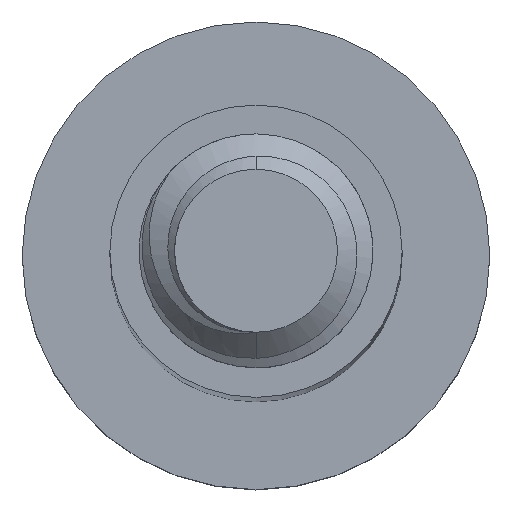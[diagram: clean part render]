
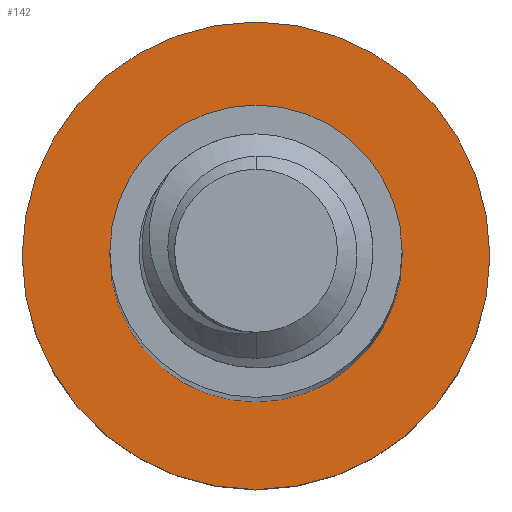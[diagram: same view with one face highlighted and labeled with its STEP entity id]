
A CAD part, top view. The second image highlights one B-rep face of the part: STEP entity #142.
In plain terms, the highlighted planar face has unit normal (0, 0, 1).
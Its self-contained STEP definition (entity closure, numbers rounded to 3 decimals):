
#1 = EDGE_CURVE ( 'NONE', #782, #109, #295, .T. ) ;
#109 = VERTEX_POINT ( 'NONE', #1182 ) ;
#142 = ADVANCED_FACE ( 'NONE', ( #1149, #1022 ), #317, .F. ) ;
#169 = DIRECTION ( 'NONE',  ( -1., 0., 0. ) ) ;
#180 = CARTESIAN_POINT ( 'NONE',  ( 2.5, 0., -45. ) ) ;
#209 = CARTESIAN_POINT ( 'NONE',  ( 0., 0., -45. ) ) ;
#260 = CIRCLE ( 'NONE', #1768, 4. ) ;
#295 = CIRCLE ( 'NONE', #571, 2.5 ) ;
#317 = PLANE ( 'NONE',  #572 ) ;
#329 = CARTESIAN_POINT ( 'NONE',  ( 4., 0., -45. ) ) ;
#342 = AXIS2_PLACEMENT_3D ( 'NONE', #209, #1048, #684 ) ;
#401 = ORIENTED_EDGE ( 'NONE', *, *, #504, .F. ) ;
#483 = CIRCLE ( 'NONE', #1142, 2.5 ) ;
#504 = EDGE_CURVE ( 'NONE', #1382, #1554, #260, .T. ) ;
#571 = AXIS2_PLACEMENT_3D ( 'NONE', #635, #1091, #1305 ) ;
#572 = AXIS2_PLACEMENT_3D ( 'NONE', #989, #1689, #1502 ) ;
#635 = CARTESIAN_POINT ( 'NONE',  ( 0., 0., -45. ) ) ;
#684 = DIRECTION ( 'NONE',  ( -1., 0., 0. ) ) ;
#761 = EDGE_CURVE ( 'NONE', #1554, #1382, #1111, .T. ) ;
#782 = VERTEX_POINT ( 'NONE', #180 ) ;
#790 = ORIENTED_EDGE ( 'NONE', *, *, #1445, .T. ) ;
#877 = CARTESIAN_POINT ( 'NONE',  ( -4., 0., -45. ) ) ;
#989 = CARTESIAN_POINT ( 'NONE',  ( 0., 0., -45. ) ) ;
#1022 = FACE_OUTER_BOUND ( 'NONE', #1684, .T. ) ;
#1048 = DIRECTION ( 'NONE',  ( 0., 0., -1. ) ) ;
#1091 = DIRECTION ( 'NONE',  ( 0., 0., -1. ) ) ;
#1111 = CIRCLE ( 'NONE', #342, 4. ) ;
#1142 = AXIS2_PLACEMENT_3D ( 'NONE', #1651, #1332, #1853 ) ;
#1149 = FACE_BOUND ( 'NONE', #1536, .T. ) ;
#1164 = ORIENTED_EDGE ( 'NONE', *, *, #761, .F. ) ;
#1182 = CARTESIAN_POINT ( 'NONE',  ( -2.5, 0., -45. ) ) ;
#1305 = DIRECTION ( 'NONE',  ( -1., 0., 0. ) ) ;
#1332 = DIRECTION ( 'NONE',  ( 0., 0., -1. ) ) ;
#1382 = VERTEX_POINT ( 'NONE', #329 ) ;
#1445 = EDGE_CURVE ( 'NONE', #109, #782, #483, .T. ) ;
#1502 = DIRECTION ( 'NONE',  ( -1., 0., 0. ) ) ;
#1536 = EDGE_LOOP ( 'NONE', ( #790, #2037 ) ) ;
#1554 = VERTEX_POINT ( 'NONE', #877 ) ;
#1651 = CARTESIAN_POINT ( 'NONE',  ( 0., 0., -45. ) ) ;
#1684 = EDGE_LOOP ( 'NONE', ( #401, #1164 ) ) ;
#1689 = DIRECTION ( 'NONE',  ( 0., 0., -1. ) ) ;
#1768 = AXIS2_PLACEMENT_3D ( 'NONE', #2028, #1834, #169 ) ;
#1834 = DIRECTION ( 'NONE',  ( 0., 0., -1. ) ) ;
#1853 = DIRECTION ( 'NONE',  ( -1., 0., 0. ) ) ;
#2028 = CARTESIAN_POINT ( 'NONE',  ( 0., 0., -45. ) ) ;
#2037 = ORIENTED_EDGE ( 'NONE', *, *, #1, .T. ) ;
